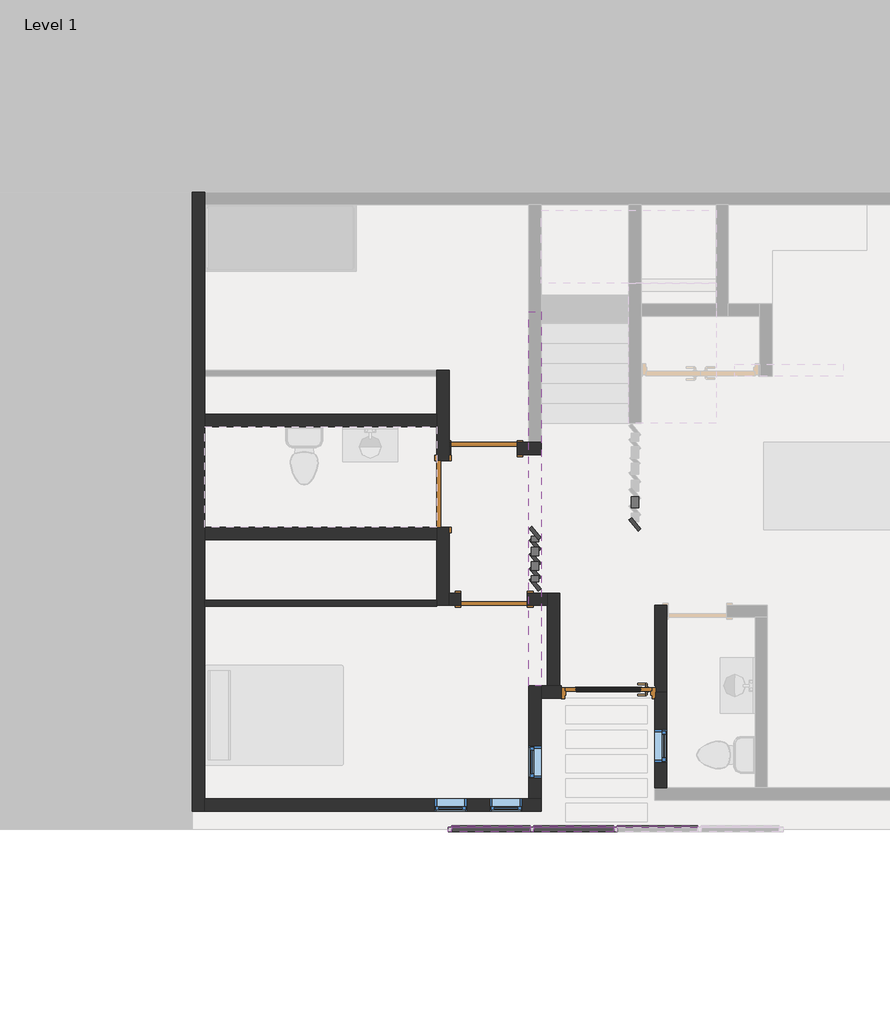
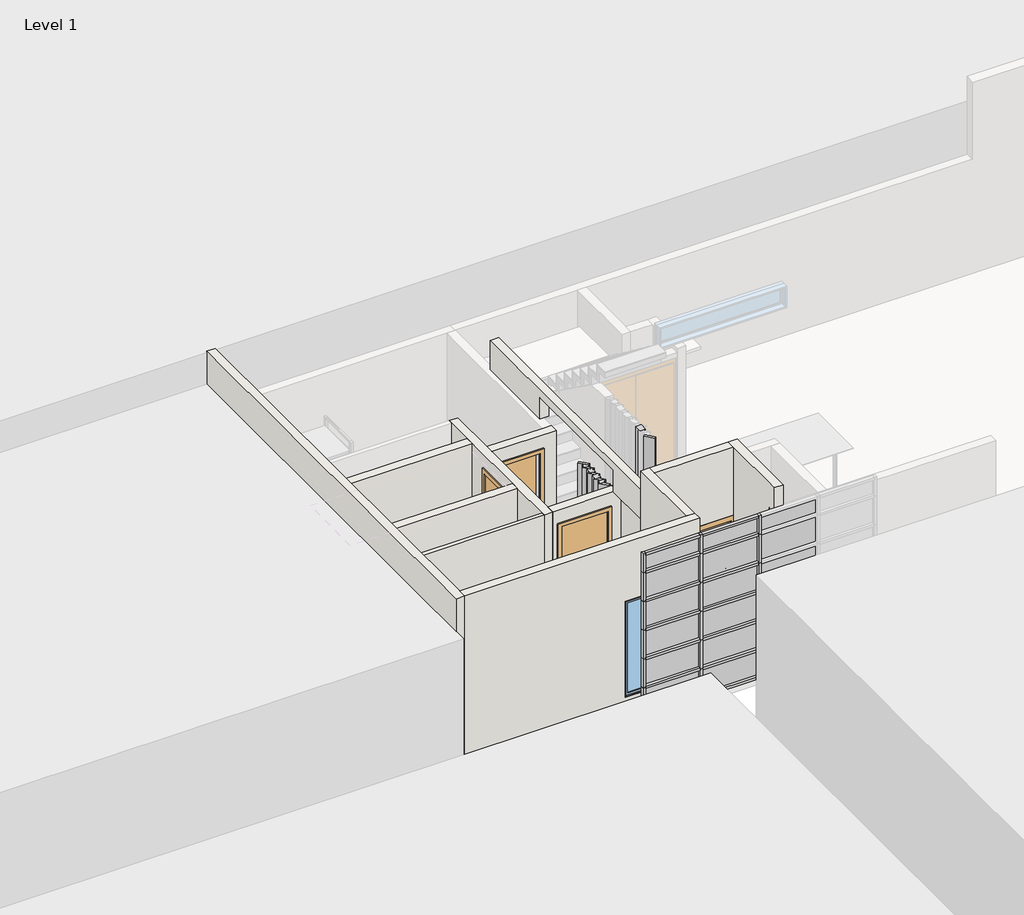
# One storey, part 1 of 3: 39 members, 23 plates, 14 walls, 4 doors, 4 windows.
"""IFC4 building model written with IfcOpenShell, lengths in millimetres."""

from ifc_helpers import new_model, si_unit, frame, origin, place, context, project, spatial, polyline, outline, extrude, faceted_brep, transform, mapped, element, save
from components import m_door_passage_single_full_lite_1200_x_2000mm_8ce647b2, m_single_flush_0915_x_2032mm_39b6ed43, m_single_flush_0915_x_2032mm_0754afa6, rectangular_mullion_50mm_x_150mm_d19166ad, rectangular_mullion_50mm_x_150mm_84331088, rectangular_mullion_50mm_x_150mm_e900c828, rectangular_mullion_50mm_x_65mm_ff5aef03, rectangular_mullion_50mm_x_65mm_a82a1849, rectangular_mullion_50mm_x_65mm_891f7412, rectangular_mullion_50mm_x_65mm_8b285529, rectangular_mullion_50mm_x_65mm_56aac8fe, rectangular_mullion_50mm_x_65mm_799d5ca8, rectangular_mullion_50mm_x_65mm_d660201f, rectangular_mullion_50mm_x_65mm_3a6a0bf0, empty_system_panel_empty_b25575e7, empty_system_panel_empty_b9bee198, empty_system_panel_empty_ddea43da, system_panel_glazed_61021ea4, system_panel_glazed_a4c32394, system_panel_glazed_60e00044, system_panel_glazed_21c0f472, system_panel_glazed_e487c379, system_panel_glazed_dd1ed69c, m_fixed_e2bd5fef

model = new_model("IFC4")

# Units and contexts
model_context = context("Model", 3, world=origin())
ifc_project = project(units=[si_unit("LENGTHUNIT", "METRE", prefix="MILLI")], contexts=[model_context])

# Site, building, storey
site = spatial("IfcSite", under=ifc_project)
building = spatial("IfcBuilding", under=site)
storey = spatial("IfcBuildingStorey", under=building, Name="Level 1", Elevation=180.0)

# Doors
placement = place(None, origin())
m_door_passage_single_full_lite_1200_x_2000mm_shape = m_door_passage_single_full_lite_1200_x_2000mm_8ce647b2(model_context)
element("IfcDoor", 1, ObjectType="M_Door-Passage-Single-Full_Lite : 1200 x 2000mm", at=placement, inside=storey, context=model_context, shape_type="MappedRepresentation", body=[
    mapped(m_door_passage_single_full_lite_1200_x_2000mm_shape, transform((-1179.1887888, -3802.3318761, 180.0), x_axis=(-1.0, 0.0, 0.0), y_axis=(0.0, -1.0, 0.0), z_axis=(0.0, 0.0, 1.0))),
])
m_single_flush_0915_x_2032mm_shape = m_single_flush_0915_x_2032mm_39b6ed43(model_context)
element("IfcDoor", 2, ObjectType="M_Single-Flush : 0915 x 2032mm", at=placement, inside=storey, context=model_context, shape_type="MappedRepresentation", body=[
    mapped(m_single_flush_0915_x_2032mm_shape, transform((-2887.6157199, -450.9818761, 180.0), x_axis=(-1.0, 0.0, 0.0), y_axis=(0.0, -1.0, 0.0), z_axis=(0.0, 0.0, 1.0))),
])
element("IfcDoor", 3, ObjectType="M_Single-Flush : 0915 x 2032mm", at=placement, inside=storey, context=model_context, shape_type="MappedRepresentation", body=[
    mapped(m_single_flush_0915_x_2032mm_shape, transform((-3450.1157199, -1073.4818761, 180.0), x_axis=(0.0, -1.0, 0.0), y_axis=(1.0, 0.0, 0.0), z_axis=(0.0, 0.0, 1.0))),
])
m_single_flush_0915_x_2032mm_2_shape = m_single_flush_0915_x_2032mm_0754afa6(model_context)
element("IfcDoor", 4, ObjectType="M_Single-Flush : 0915 x 2032mm", at=placement, inside=storey, context=model_context, shape_type="MappedRepresentation", body=[
    mapped(m_single_flush_0915_x_2032mm_2_shape, transform((-2747.6157199, -2519.9818761, 180.0), x_axis=(-1.0, 0.0, 0.0), y_axis=(0.0, -1.0, 0.0), z_axis=(0.0, 0.0, 1.0))),
])

# Members
rectangular_mullion_50mm_x_150mm_shape = rectangular_mullion_50mm_x_150mm_d19166ad(model_context)
element("IfcMember", 5, ObjectType="Rectangular Mullion : 50mm x 150mm", at=placement, inside=storey, context=model_context, shape_type="MappedRepresentation", body=[
    mapped(rectangular_mullion_50mm_x_150mm_shape, transform((-2185.1157199, -2159.981876, 180.0), x_axis=(0.0, 1.0, 0.0), y_axis=(1.0, 0.0, 0.0), z_axis=(0.0, 0.0, -1.0))),
])
element("IfcMember", 6, ObjectType="Rectangular Mullion : 50mm x 150mm", at=placement, inside=storey, context=model_context, shape_type="MappedRepresentation", body=[
    mapped(rectangular_mullion_50mm_x_150mm_shape, transform((-2185.1157199, -1964.9818761, 180.0), x_axis=(0.0, 1.0, 0.0), y_axis=(1.0, 0.0, 0.0), z_axis=(0.0, 0.0, -1.0))),
])
element("IfcMember", 7, ObjectType="Rectangular Mullion : 50mm x 150mm", at=placement, inside=storey, context=model_context, shape_type="MappedRepresentation", body=[
    mapped(rectangular_mullion_50mm_x_150mm_shape, transform((-2185.1157199, -1769.9818763, 180.0), x_axis=(0.0, 1.0, 0.0), y_axis=(1.0, 0.0, 0.0), z_axis=(0.0, 0.0, -1.0))),
])
rectangular_mullion_50mm_x_150mm_2_shape = rectangular_mullion_50mm_x_150mm_84331088(model_context)
element("IfcMember", 8, ObjectType="Rectangular Mullion : 50mm x 150mm", at=placement, inside=storey, context=model_context, shape_type="MappedRepresentation", body=[
    mapped(rectangular_mullion_50mm_x_150mm_2_shape, transform((-815.1157199, -1530.9818761, 180.0), x_axis=(0.0, -1.0, 0.0), y_axis=(-1.0, 0.0, 0.0), z_axis=(0.0, 0.0, -1.0))),
])
element("IfcMember", 9, ObjectType="Rectangular Mullion : 50mm x 150mm", at=placement, inside=storey, context=model_context, shape_type="MappedRepresentation", body=[
    mapped(rectangular_mullion_50mm_x_150mm_2_shape, transform((-2185.1157199, -1574.9818761, 180.0), x_axis=(0.0, 1.0, 0.0), y_axis=(1.0, 0.0, 0.0), z_axis=(0.0, 0.0, -1.0))),
])
rectangular_mullion_50mm_x_150mm_3_shape = rectangular_mullion_50mm_x_150mm_e900c828(model_context)
element("IfcMember", 10, ObjectType="Rectangular Mullion : 50mm x 150mm", at=placement, inside=storey, context=model_context, shape_type="MappedRepresentation", body=[
    mapped(rectangular_mullion_50mm_x_150mm_3_shape, transform((-2185.1157199, -2354.9818761, 2560.0), x_axis=(0.0, -1.0, 0.0), y_axis=(1.0, 0.0, 0.0), z_axis=(0.0, 0.0, 1.0))),
])
rectangular_mullion_50mm_x_65mm_shape = rectangular_mullion_50mm_x_65mm_ff5aef03(model_context)
element("IfcMember", 11, ObjectType="Rectangular Mullion : 50mm x 65mm", at=placement, inside=storey, context=model_context, shape_type="MappedRepresentation", body=[
    mapped(rectangular_mullion_50mm_x_65mm_shape, transform((-3380.1157199, -5680.9818761, 780.0), x_axis=(-1.0, 0.0, 0.0), y_axis=(0.0, -1.0, 0.0), z_axis=(0.0, 0.0, 1.0))),
])
element("IfcMember", 12, ObjectType="Rectangular Mullion : 50mm x 65mm", at=placement, inside=storey, context=model_context, shape_type="MappedRepresentation", body=[
    mapped(rectangular_mullion_50mm_x_65mm_shape, transform((-3380.1157199, -5680.9818761, 1380.0), x_axis=(-1.0, 0.0, 0.0), y_axis=(0.0, -1.0, 0.0), z_axis=(0.0, 0.0, 1.0))),
])
element("IfcMember", 13, ObjectType="Rectangular Mullion : 50mm x 65mm", at=placement, inside=storey, context=model_context, shape_type="MappedRepresentation", body=[
    mapped(rectangular_mullion_50mm_x_65mm_shape, transform((-3380.1157199, -5680.9818761, 1980.0), x_axis=(-1.0, 0.0, 0.0), y_axis=(0.0, -1.0, 0.0), z_axis=(0.0, 0.0, 1.0))),
])
element("IfcMember", 14, ObjectType="Rectangular Mullion : 50mm x 65mm", at=placement, inside=storey, context=model_context, shape_type="MappedRepresentation", body=[
    mapped(rectangular_mullion_50mm_x_65mm_shape, transform((-3380.1157199, -5680.9818761, 2580.0), x_axis=(-1.0, 0.0, 0.0), y_axis=(0.0, -1.0, 0.0), z_axis=(0.0, 0.0, 1.0))),
])
element("IfcMember", 15, ObjectType="Rectangular Mullion : 50mm x 65mm", at=placement, inside=storey, context=model_context, shape_type="MappedRepresentation", body=[
    mapped(rectangular_mullion_50mm_x_65mm_shape, transform((-3380.1157199, -5680.9818761, 3180.0), x_axis=(-1.0, 0.0, 0.0), y_axis=(0.0, -1.0, 0.0), z_axis=(0.0, 0.0, 1.0))),
])
rectangular_mullion_50mm_x_65mm_2_shape = rectangular_mullion_50mm_x_65mm_a82a1849(model_context)
element("IfcMember", 16, ObjectType="Rectangular Mullion : 50mm x 65mm", at=placement, inside=storey, context=model_context, shape_type="MappedRepresentation", body=[
    mapped(rectangular_mullion_50mm_x_65mm_2_shape, transform((-2230.1157198, -5680.9818761, 180.0), x_axis=(1.0, 0.0, 0.0), y_axis=(0.0, -1.0, 0.0), z_axis=(0.0, 0.0, -1.0))),
])
element("IfcMember", 17, ObjectType="Rectangular Mullion : 50mm x 65mm", at=placement, inside=storey, context=model_context, shape_type="MappedRepresentation", body=[
    mapped(rectangular_mullion_50mm_x_65mm_2_shape, transform((-1080.1157199, -5680.9818761, 180.0), x_axis=(1.0, 0.0, 0.0), y_axis=(0.0, -1.0, 0.0), z_axis=(0.0, 0.0, -1.0))),
])
element("IfcMember", 18, ObjectType="Rectangular Mullion : 50mm x 65mm", at=placement, inside=storey, context=model_context, shape_type="MappedRepresentation", body=[
    mapped(rectangular_mullion_50mm_x_65mm_2_shape, transform((-2230.1157198, -5680.9818761, 780.0), x_axis=(1.0, 0.0, 0.0), y_axis=(0.0, -1.0, 0.0), z_axis=(0.0, 0.0, -1.0))),
])
element("IfcMember", 19, ObjectType="Rectangular Mullion : 50mm x 65mm", at=placement, inside=storey, context=model_context, shape_type="MappedRepresentation", body=[
    mapped(rectangular_mullion_50mm_x_65mm_2_shape, transform((-1080.1157199, -5680.9818761, 780.0), x_axis=(1.0, 0.0, 0.0), y_axis=(0.0, -1.0, 0.0), z_axis=(0.0, 0.0, -1.0))),
])
element("IfcMember", 20, ObjectType="Rectangular Mullion : 50mm x 65mm", at=placement, inside=storey, context=model_context, shape_type="MappedRepresentation", body=[
    mapped(rectangular_mullion_50mm_x_65mm_2_shape, transform((-2230.1157198, -5680.9818761, 1380.0), x_axis=(1.0, 0.0, 0.0), y_axis=(0.0, -1.0, 0.0), z_axis=(0.0, 0.0, -1.0))),
])
element("IfcMember", 21, ObjectType="Rectangular Mullion : 50mm x 65mm", at=placement, inside=storey, context=model_context, shape_type="MappedRepresentation", body=[
    mapped(rectangular_mullion_50mm_x_65mm_2_shape, transform((-1080.1157199, -5680.9818761, 1380.0), x_axis=(1.0, 0.0, 0.0), y_axis=(0.0, -1.0, 0.0), z_axis=(0.0, 0.0, -1.0))),
])
element("IfcMember", 22, ObjectType="Rectangular Mullion : 50mm x 65mm", at=placement, inside=storey, context=model_context, shape_type="MappedRepresentation", body=[
    mapped(rectangular_mullion_50mm_x_65mm_2_shape, transform((-2230.1157198, -5680.9818761, 1980.0), x_axis=(1.0, 0.0, 0.0), y_axis=(0.0, -1.0, 0.0), z_axis=(0.0, 0.0, -1.0))),
])
element("IfcMember", 23, ObjectType="Rectangular Mullion : 50mm x 65mm", at=placement, inside=storey, context=model_context, shape_type="MappedRepresentation", body=[
    mapped(rectangular_mullion_50mm_x_65mm_2_shape, transform((-1080.1157199, -5680.9818761, 1980.0), x_axis=(1.0, 0.0, 0.0), y_axis=(0.0, -1.0, 0.0), z_axis=(0.0, 0.0, -1.0))),
])
element("IfcMember", 24, ObjectType="Rectangular Mullion : 50mm x 65mm", at=placement, inside=storey, context=model_context, shape_type="MappedRepresentation", body=[
    mapped(rectangular_mullion_50mm_x_65mm_2_shape, transform((-2230.1157198, -5680.9818761, 2580.0), x_axis=(1.0, 0.0, 0.0), y_axis=(0.0, -1.0, 0.0), z_axis=(0.0, 0.0, -1.0))),
])
element("IfcMember", 25, ObjectType="Rectangular Mullion : 50mm x 65mm", at=placement, inside=storey, context=model_context, shape_type="MappedRepresentation", body=[
    mapped(rectangular_mullion_50mm_x_65mm_2_shape, transform((-1080.1157199, -5680.9818761, 2580.0), x_axis=(1.0, 0.0, 0.0), y_axis=(0.0, -1.0, 0.0), z_axis=(0.0, 0.0, -1.0))),
])
rectangular_mullion_50mm_x_65mm_3_shape = rectangular_mullion_50mm_x_65mm_891f7412(model_context)
element("IfcMember", 26, ObjectType="Rectangular Mullion : 50mm x 65mm", at=placement, inside=storey, context=model_context, shape_type="MappedRepresentation", body=[
    mapped(rectangular_mullion_50mm_x_65mm_3_shape, transform((-2230.1157198, -5680.9818761, 3180.0), x_axis=(1.0, 0.0, 0.0), y_axis=(0.0, -1.0, 0.0), z_axis=(0.0, 0.0, -1.0))),
])
element("IfcMember", 27, ObjectType="Rectangular Mullion : 50mm x 65mm", at=placement, inside=storey, context=model_context, shape_type="MappedRepresentation", body=[
    mapped(rectangular_mullion_50mm_x_65mm_3_shape, transform((-1080.1157199, -5680.9818761, 3180.0), x_axis=(1.0, 0.0, 0.0), y_axis=(0.0, -1.0, 0.0), z_axis=(0.0, 0.0, -1.0))),
])
rectangular_mullion_50mm_x_65mm_4_shape = rectangular_mullion_50mm_x_65mm_8b285529(model_context)
element("IfcMember", 28, ObjectType="Rectangular Mullion : 50mm x 65mm", at=placement, inside=storey, context=model_context, shape_type="MappedRepresentation", body=[
    mapped(rectangular_mullion_50mm_x_65mm_4_shape, transform((-3380.1157199, -5680.9818761, 3574.3395716), x_axis=(-1.0, 0.0, 0.0), y_axis=(0.0, -1.0, 0.0), z_axis=(0.0, 0.0, 1.0))),
])
rectangular_mullion_50mm_x_65mm_5_shape = rectangular_mullion_50mm_x_65mm_56aac8fe(model_context)
element("IfcMember", 29, ObjectType="Rectangular Mullion : 50mm x 65mm", at=placement, inside=storey, context=model_context, shape_type="MappedRepresentation", body=[
    mapped(rectangular_mullion_50mm_x_65mm_5_shape, transform((-2255.1157198, -5680.9818761, 3574.3395716), x_axis=(0.0, 0.0, 1.0), y_axis=(0.0, -1.0, 0.0), z_axis=(1.0, 0.0, 0.0))),
])
element("IfcMember", 30, ObjectType="Rectangular Mullion : 50mm x 65mm", at=placement, inside=storey, context=model_context, shape_type="MappedRepresentation", body=[
    mapped(rectangular_mullion_50mm_x_65mm_5_shape, transform((-3330.1157199, -5680.9818761, 180.0), x_axis=(0.0, 0.0, -1.0), y_axis=(0.0, -1.0, 0.0), z_axis=(-1.0, 0.0, 0.0))),
])
rectangular_mullion_50mm_x_65mm_6_shape = rectangular_mullion_50mm_x_65mm_799d5ca8(model_context)
element("IfcMember", 31, ObjectType="Rectangular Mullion : 50mm x 65mm", at=placement, inside=storey, context=model_context, shape_type="MappedRepresentation", body=[
    mapped(rectangular_mullion_50mm_x_65mm_6_shape, transform((-2255.1157198, -5680.9818761, 780.0), x_axis=(0.0, 0.0, 1.0), y_axis=(0.0, -1.0, 0.0), z_axis=(1.0, 0.0, 0.0))),
])
element("IfcMember", 32, ObjectType="Rectangular Mullion : 50mm x 65mm", at=placement, inside=storey, context=model_context, shape_type="MappedRepresentation", body=[
    mapped(rectangular_mullion_50mm_x_65mm_6_shape, transform((-2255.1157198, -5680.9818761, 1380.0), x_axis=(0.0, 0.0, 1.0), y_axis=(0.0, -1.0, 0.0), z_axis=(1.0, 0.0, 0.0))),
])
element("IfcMember", 33, ObjectType="Rectangular Mullion : 50mm x 65mm", at=placement, inside=storey, context=model_context, shape_type="MappedRepresentation", body=[
    mapped(rectangular_mullion_50mm_x_65mm_6_shape, transform((-2255.1157198, -5680.9818761, 1980.0), x_axis=(0.0, 0.0, 1.0), y_axis=(0.0, -1.0, 0.0), z_axis=(1.0, 0.0, 0.0))),
])
element("IfcMember", 34, ObjectType="Rectangular Mullion : 50mm x 65mm", at=placement, inside=storey, context=model_context, shape_type="MappedRepresentation", body=[
    mapped(rectangular_mullion_50mm_x_65mm_6_shape, transform((-2255.1157198, -5680.9818761, 2580.0), x_axis=(0.0, 0.0, 1.0), y_axis=(0.0, -1.0, 0.0), z_axis=(1.0, 0.0, 0.0))),
])
element("IfcMember", 35, ObjectType="Rectangular Mullion : 50mm x 65mm", at=placement, inside=storey, context=model_context, shape_type="MappedRepresentation", body=[
    mapped(rectangular_mullion_50mm_x_65mm_6_shape, transform((-2255.1157198, -5680.9818761, 3180.0), x_axis=(0.0, 0.0, 1.0), y_axis=(0.0, -1.0, 0.0), z_axis=(1.0, 0.0, 0.0))),
])
rectangular_mullion_50mm_x_65mm_7_shape = rectangular_mullion_50mm_x_65mm_d660201f(model_context)
element("IfcMember", 36, ObjectType="Rectangular Mullion : 50mm x 65mm", at=placement, inside=storey, context=model_context, shape_type="MappedRepresentation", body=[
    mapped(rectangular_mullion_50mm_x_65mm_7_shape, transform((-1105.1157199, -5680.9818761, 3574.3395716), x_axis=(0.0, 0.0, 1.0), y_axis=(0.0, -1.0, 0.0), z_axis=(1.0, 0.0, 0.0))),
])
element("IfcMember", 37, ObjectType="Rectangular Mullion : 50mm x 65mm", at=placement, inside=storey, context=model_context, shape_type="MappedRepresentation", body=[
    mapped(rectangular_mullion_50mm_x_65mm_7_shape, transform((-2205.1157198, -5680.9818761, 180.0), x_axis=(0.0, 0.0, -1.0), y_axis=(0.0, -1.0, 0.0), z_axis=(-1.0, 0.0, 0.0))),
])
element("IfcMember", 38, ObjectType="Rectangular Mullion : 50mm x 65mm", at=placement, inside=storey, context=model_context, shape_type="MappedRepresentation", body=[
    mapped(rectangular_mullion_50mm_x_65mm_7_shape, transform((-1055.1157199, -5680.9818761, 180.0), x_axis=(0.0, 0.0, -1.0), y_axis=(0.0, -1.0, 0.0), z_axis=(-1.0, 0.0, 0.0))),
])
rectangular_mullion_50mm_x_65mm_8_shape = rectangular_mullion_50mm_x_65mm_3a6a0bf0(model_context)
element("IfcMember", 39, ObjectType="Rectangular Mullion : 50mm x 65mm", at=placement, inside=storey, context=model_context, shape_type="MappedRepresentation", body=[
    mapped(rectangular_mullion_50mm_x_65mm_8_shape, transform((-1105.1157199, -5680.9818761, 780.0), x_axis=(0.0, 0.0, 1.0), y_axis=(0.0, -1.0, 0.0), z_axis=(1.0, 0.0, 0.0))),
])
element("IfcMember", 40, ObjectType="Rectangular Mullion : 50mm x 65mm", at=placement, inside=storey, context=model_context, shape_type="MappedRepresentation", body=[
    mapped(rectangular_mullion_50mm_x_65mm_8_shape, transform((-1105.1157199, -5680.9818761, 1380.0), x_axis=(0.0, 0.0, 1.0), y_axis=(0.0, -1.0, 0.0), z_axis=(1.0, 0.0, 0.0))),
])
element("IfcMember", 41, ObjectType="Rectangular Mullion : 50mm x 65mm", at=placement, inside=storey, context=model_context, shape_type="MappedRepresentation", body=[
    mapped(rectangular_mullion_50mm_x_65mm_8_shape, transform((-1105.1157199, -5680.9818761, 1980.0), x_axis=(0.0, 0.0, 1.0), y_axis=(0.0, -1.0, 0.0), z_axis=(1.0, 0.0, 0.0))),
])
element("IfcMember", 42, ObjectType="Rectangular Mullion : 50mm x 65mm", at=placement, inside=storey, context=model_context, shape_type="MappedRepresentation", body=[
    mapped(rectangular_mullion_50mm_x_65mm_8_shape, transform((-1105.1157199, -5680.9818761, 2580.0), x_axis=(0.0, 0.0, 1.0), y_axis=(0.0, -1.0, 0.0), z_axis=(1.0, 0.0, 0.0))),
])
element("IfcMember", 43, ObjectType="Rectangular Mullion : 50mm x 65mm", at=placement, inside=storey, context=model_context, shape_type="MappedRepresentation", body=[
    mapped(rectangular_mullion_50mm_x_65mm_8_shape, transform((-1105.1157199, -5680.9818761, 3180.0), x_axis=(0.0, 0.0, 1.0), y_axis=(0.0, -1.0, 0.0), z_axis=(1.0, 0.0, 0.0))),
])

# Plates
empty_system_panel_empty_shape = empty_system_panel_empty_b25575e7(model_context)
element("IfcPlate", 44, ObjectType="Empty System Panel : Empty", at=placement, inside=storey, context=model_context, shape_type="MappedRepresentation", body=[
    mapped(empty_system_panel_empty_shape, transform((-815.1157199, -1188.481876, 180.0), x_axis=(0.0, -1.0, 0.0), y_axis=(1.0, 0.0, 0.0), z_axis=(0.0, 0.0, 1.0))),
])
empty_system_panel_empty_2_shape = empty_system_panel_empty_b9bee198(model_context)
element("IfcPlate", 45, ObjectType="Empty System Panel : Empty", at=placement, inside=storey, context=model_context, shape_type="MappedRepresentation", body=[
    mapped(empty_system_panel_empty_2_shape, transform((-2185.1157199, -2238.0353282, 180.0), x_axis=(0.0, 1.0, 0.0), y_axis=(-1.0, 0.0, 0.0), z_axis=(0.0, 0.0, 1.0))),
])
element("IfcPlate", 46, ObjectType="Empty System Panel : Empty", at=placement, inside=storey, context=model_context, shape_type="MappedRepresentation", body=[
    mapped(empty_system_panel_empty_2_shape, transform((-2185.1157199, -1691.9284241, 180.0), x_axis=(0.0, 1.0, 0.0), y_axis=(-1.0, 0.0, 0.0), z_axis=(0.0, 0.0, 1.0))),
])
empty_system_panel_empty_3_shape = empty_system_panel_empty_ddea43da(model_context)
element("IfcPlate", 47, ObjectType="Empty System Panel : Empty", at=placement, inside=storey, context=model_context, shape_type="MappedRepresentation", body=[
    mapped(empty_system_panel_empty_3_shape, transform((-2185.1157199, -2062.4818761, 180.0), x_axis=(0.0, 1.0, 0.0), y_axis=(-1.0, 0.0, 0.0), z_axis=(0.0, 0.0, 1.0))),
])
element("IfcPlate", 48, ObjectType="Empty System Panel : Empty", at=placement, inside=storey, context=model_context, shape_type="MappedRepresentation", body=[
    mapped(empty_system_panel_empty_3_shape, transform((-2185.1157199, -1867.4818762, 180.0), x_axis=(0.0, 1.0, 0.0), y_axis=(-1.0, 0.0, 0.0), z_axis=(0.0, 0.0, 1.0))),
])
system_panel_glazed_shape = system_panel_glazed_61021ea4(model_context)
element("IfcPlate", 49, ObjectType="System Panel : Glazed", at=placement, inside=storey, context=model_context, shape_type="MappedRepresentation", body=[
    mapped(system_panel_glazed_shape, transform((-2792.6157198, -5680.9818761, 230.0), x_axis=(1.0, 0.0, 0.0), y_axis=(0.0, 1.0, 0.0), z_axis=(0.0, 0.0, 1.0))),
])
system_panel_glazed_2_shape = system_panel_glazed_a4c32394(model_context)
element("IfcPlate", 50, ObjectType="System Panel : Glazed", at=placement, inside=storey, context=model_context, shape_type="MappedRepresentation", body=[
    mapped(system_panel_glazed_2_shape, transform((-2792.6157198, -5680.9818761, 805.0), x_axis=(1.0, 0.0, 0.0), y_axis=(0.0, 1.0, 0.0), z_axis=(0.0, 0.0, 1.0))),
])
element("IfcPlate", 51, ObjectType="System Panel : Glazed", at=placement, inside=storey, context=model_context, shape_type="MappedRepresentation", body=[
    mapped(system_panel_glazed_2_shape, transform((-2792.6157198, -5680.9818761, 1405.0), x_axis=(1.0, 0.0, 0.0), y_axis=(0.0, 1.0, 0.0), z_axis=(0.0, 0.0, 1.0))),
])
element("IfcPlate", 52, ObjectType="System Panel : Glazed", at=placement, inside=storey, context=model_context, shape_type="MappedRepresentation", body=[
    mapped(system_panel_glazed_2_shape, transform((-2792.6157198, -5680.9818761, 2005.0), x_axis=(1.0, 0.0, 0.0), y_axis=(0.0, 1.0, 0.0), z_axis=(0.0, 0.0, 1.0))),
])
element("IfcPlate", 53, ObjectType="System Panel : Glazed", at=placement, inside=storey, context=model_context, shape_type="MappedRepresentation", body=[
    mapped(system_panel_glazed_2_shape, transform((-2792.6157198, -5680.9818761, 2605.0), x_axis=(1.0, 0.0, 0.0), y_axis=(0.0, 1.0, 0.0), z_axis=(0.0, 0.0, 1.0))),
])
system_panel_glazed_3_shape = system_panel_glazed_60e00044(model_context)
element("IfcPlate", 54, ObjectType="System Panel : Glazed", at=placement, inside=storey, context=model_context, shape_type="MappedRepresentation", body=[
    mapped(system_panel_glazed_3_shape, transform((-1655.1157198, -5680.9818761, 230.0), x_axis=(1.0, 0.0, 0.0), y_axis=(0.0, 1.0, 0.0), z_axis=(0.0, 0.0, 1.0))),
])
element("IfcPlate", 55, ObjectType="System Panel : Glazed", at=placement, inside=storey, context=model_context, shape_type="MappedRepresentation", body=[
    mapped(system_panel_glazed_3_shape, transform((-505.11572, -5680.9818761, 230.0), x_axis=(1.0, 0.0, 0.0), y_axis=(0.0, 1.0, 0.0), z_axis=(0.0, 0.0, 1.0))),
])
system_panel_glazed_4_shape = system_panel_glazed_21c0f472(model_context)
element("IfcPlate", 56, ObjectType="System Panel : Glazed", at=placement, inside=storey, context=model_context, shape_type="MappedRepresentation", body=[
    mapped(system_panel_glazed_4_shape, transform((-1655.1157198, -5680.9818761, 805.0), x_axis=(1.0, 0.0, 0.0), y_axis=(0.0, 1.0, 0.0), z_axis=(0.0, 0.0, 1.0))),
])
element("IfcPlate", 57, ObjectType="System Panel : Glazed", at=placement, inside=storey, context=model_context, shape_type="MappedRepresentation", body=[
    mapped(system_panel_glazed_4_shape, transform((-1655.1157198, -5680.9818761, 1405.0), x_axis=(1.0, 0.0, 0.0), y_axis=(0.0, 1.0, 0.0), z_axis=(0.0, 0.0, 1.0))),
])
element("IfcPlate", 58, ObjectType="System Panel : Glazed", at=placement, inside=storey, context=model_context, shape_type="MappedRepresentation", body=[
    mapped(system_panel_glazed_4_shape, transform((-1655.1157198, -5680.9818761, 2005.0), x_axis=(1.0, 0.0, 0.0), y_axis=(0.0, 1.0, 0.0), z_axis=(0.0, 0.0, 1.0))),
])
element("IfcPlate", 59, ObjectType="System Panel : Glazed", at=placement, inside=storey, context=model_context, shape_type="MappedRepresentation", body=[
    mapped(system_panel_glazed_4_shape, transform((-1655.1157198, -5680.9818761, 2605.0), x_axis=(1.0, 0.0, 0.0), y_axis=(0.0, 1.0, 0.0), z_axis=(0.0, 0.0, 1.0))),
])
element("IfcPlate", 60, ObjectType="System Panel : Glazed", at=placement, inside=storey, context=model_context, shape_type="MappedRepresentation", body=[
    mapped(system_panel_glazed_4_shape, transform((-505.11572, -5680.9818761, 805.0), x_axis=(1.0, 0.0, 0.0), y_axis=(0.0, 1.0, 0.0), z_axis=(0.0, 0.0, 1.0))),
])
element("IfcPlate", 61, ObjectType="System Panel : Glazed", at=placement, inside=storey, context=model_context, shape_type="MappedRepresentation", body=[
    mapped(system_panel_glazed_4_shape, transform((-505.11572, -5680.9818761, 1405.0), x_axis=(1.0, 0.0, 0.0), y_axis=(0.0, 1.0, 0.0), z_axis=(0.0, 0.0, 1.0))),
])
element("IfcPlate", 62, ObjectType="System Panel : Glazed", at=placement, inside=storey, context=model_context, shape_type="MappedRepresentation", body=[
    mapped(system_panel_glazed_4_shape, transform((-505.11572, -5680.9818761, 2005.0), x_axis=(1.0, 0.0, 0.0), y_axis=(0.0, 1.0, 0.0), z_axis=(0.0, 0.0, 1.0))),
])
element("IfcPlate", 63, ObjectType="System Panel : Glazed", at=placement, inside=storey, context=model_context, shape_type="MappedRepresentation", body=[
    mapped(system_panel_glazed_4_shape, transform((-505.11572, -5680.9818761, 2605.0), x_axis=(1.0, 0.0, 0.0), y_axis=(0.0, 1.0, 0.0), z_axis=(0.0, 0.0, 1.0))),
])
system_panel_glazed_5_shape = system_panel_glazed_e487c379(model_context)
element("IfcPlate", 64, ObjectType="System Panel : Glazed", at=placement, inside=storey, context=model_context, shape_type="MappedRepresentation", body=[
    mapped(system_panel_glazed_5_shape, transform((-2792.6157198, -5680.9818761, 3205.0), x_axis=(1.0, 0.0, 0.0), y_axis=(0.0, 1.0, 0.0), z_axis=(0.0, 0.0, 1.0))),
])
system_panel_glazed_6_shape = system_panel_glazed_dd1ed69c(model_context)
element("IfcPlate", 65, ObjectType="System Panel : Glazed", at=placement, inside=storey, context=model_context, shape_type="MappedRepresentation", body=[
    mapped(system_panel_glazed_6_shape, transform((-1655.1157198, -5680.9818761, 3205.0), x_axis=(1.0, 0.0, 0.0), y_axis=(0.0, 1.0, 0.0), z_axis=(0.0, 0.0, 1.0))),
])
element("IfcPlate", 66, ObjectType="System Panel : Glazed", at=placement, inside=storey, context=model_context, shape_type="MappedRepresentation", body=[
    mapped(system_panel_glazed_6_shape, transform((-505.11572, -5680.9818761, 3205.0), x_axis=(1.0, 0.0, 0.0), y_axis=(0.0, 1.0, 0.0), z_axis=(0.0, 0.0, 1.0))),
])

# Walls
element("IfcWall", 67, ObjectType="Generic - 170", at=placement, inside=storey, context=model_context, shape_type="Brep", body=[
    faceted_brep([(-6724.1375886, -5430.9818761, 180.0), (-6724.1375886, -5260.9818761, 180.0), (-6724.1375886, -2616.2535438, 180.0), (-6724.1375886, -2536.2535438, 180.0), (-6724.1375886, -1700.9818761, 180.0), (-6724.1375886, -1530.9818761, 180.0), (-6724.1375886, -150.9818761, 180.0), (-6724.1375886, 19.0181239, 180.0), (-6724.1375886, 544.0181239, 180.0), (-6724.1375886, 624.0181239, 180.0), (-6724.1375886, 2899.0181239, 180.0), (-6724.1375886, 3069.0181239, 180.0), (-6724.1375886, 3069.0181239, 2560.0), (-6724.1375886, 3069.0181239, 3700.0), (-6724.1375886, -5260.9818761, 3700.0), (-6724.1375886, -5430.9818761, 3700.0), (-6894.1375886, -5430.9818761, 180.0), (-6894.1375886, -5430.9818761, 3700.0), (-6894.1375886, 3069.0181239, 3700.0), (-6894.1375886, 3069.0181239, 180.0)], [[[0, 1, 2, 3, 4, 5, 6, 7, 8, 9, 10, 11, 12, 13, 14, 15]], [[16, 17, 18, 19]], [[11, 10, 9, 8, 7, 6, 5, 4, 3, 2, 1, 0, 16, 19]], [[15, 14, 13, 18, 17]], [[13, 12, 11, 19, 18]], [[0, 15, 17, 16]]]),
])
element("IfcWall", 68, ObjectType="Generic - 170", at=placement, inside=storey, context=model_context, shape_type="Brep", body=[
    faceted_brep([(-545.1157199, -3880.9818761, 3700.0), (-2100.1157199, -3880.9818761, 3700.0), (-2100.1157199, -3880.9818761, 180.0), (-1829.1887888, -3880.9818761, 180.0), (-1829.1887888, -3880.9818761, 2280.0), (-545.1157199, -3880.9818761, 2280.0), (-2100.1157199, -3710.9818761, 3700.0), (-545.1157199, -3710.9818761, 3700.0), (-545.1157199, -3710.9818761, 2560.0), (-545.1157199, -3710.9818761, 2280.0), (-1829.1887888, -3710.9818761, 2280.0), (-1829.1887888, -3710.9818761, 180.0), (-1848.2387888, -3710.9818761, 180.0), (-2018.2387888, -3710.9818761, 180.0), (-2100.1157199, -3710.9818761, 180.0), (-2100.1157199, -3710.9818761, 3300.0), (-545.1157199, -3795.9818761, 2280.0)], [[[0, 1, 2, 3, 4, 5]], [[6, 7, 8, 9, 10, 11, 12, 13, 14, 15]], [[2, 14, 13, 12, 11, 3]], [[1, 0, 7, 6]], [[10, 4, 3, 11]], [[4, 10, 9, 16, 5]], [[7, 0, 5, 16, 9, 8]], [[1, 6, 15, 14, 2]]]),
])
element("IfcWall", 69, ObjectType="Generic - 170", at=placement, inside=storey, context=model_context, shape_type="Brep", body=[
    faceted_brep([(-2100.1157199, -535.9818761, 180.0), (-2100.1157199, -535.9818761, 2560.0), (-3365.1157199, -535.9818761, 2560.0), (-3365.1157199, -535.9818761, 180.0), (-3345.1157199, -535.9818761, 180.0), (-3345.1157199, -535.9818761, 2212.0), (-2430.1157199, -535.9818761, 2212.0), (-2430.1157199, -535.9818761, 180.0), (-2100.1157199, -365.9818761, 2560.0), (-2100.1157199, -365.9818761, 180.0), (-2270.1157199, -365.9818761, 180.0), (-2430.1157199, -365.9818761, 180.0), (-2430.1157199, -365.9818761, 2212.0), (-3345.1157199, -365.9818761, 2212.0), (-3345.1157199, -365.9818761, 180.0), (-3365.1157199, -365.9818761, 180.0), (-3365.1157199, -365.9818761, 2560.0), (-2270.1157199, -365.9818761, 2560.0)], [[[0, 1, 2, 3, 4, 5, 6, 7]], [[8, 9, 10, 11, 12, 13, 14, 15, 16, 17]], [[9, 0, 7, 11, 10]], [[3, 15, 14, 4]], [[1, 0, 9, 8]], [[3, 2, 16, 15]], [[13, 5, 4, 14]], [[5, 13, 12, 6]], [[6, 12, 11, 7]], [[2, 1, 8, 17, 16]]]),
])
element("IfcWall", 70, ObjectType="Generic - 170", at=placement, inside=storey, context=model_context, shape_type="Brep", body=[
    faceted_brep([(-2100.1157199, -5260.9818761, 180.0), (-2100.1157199, -3880.9818761, 180.0), (-2100.1157199, -3710.9818761, 180.0), (-2100.1157199, -3710.9818761, 2700.0), (-2100.1157199, -3710.9818761, 3300.0), (-2100.1157199, -3710.9818761, 3700.0), (-2100.1157199, -3880.9818761, 3700.0), (-2100.1157199, -5260.9818761, 3700.0), (-2100.1157199, -4980.9818761, 485.0), (-2100.1157199, -4980.9818761, 2485.0), (-2100.1157199, -4530.9818761, 2485.0), (-2100.1157199, -4530.9818761, 485.0), (-2270.1157199, -5260.9818761, 180.0), (-2270.1157199, -5260.9818761, 3700.0), (-2270.1157199, -3710.9818761, 3700.0), (-2270.1157199, -3710.9818761, 3300.0), (-2270.1157199, -3710.9818761, 2700.0), (-2270.1157199, -3710.9818761, 180.0), (-2270.1157199, -4980.9818761, 485.0), (-2270.1157199, -4530.9818761, 485.0), (-2270.1157199, -4530.9818761, 2485.0), (-2270.1157199, -4980.9818761, 2485.0)], [[[0, 1, 2, 3, 4, 5, 6, 7], [8, 9, 10, 11]], [[12, 13, 14, 15, 16, 17], [18, 19, 20, 21]], [[2, 1, 0, 12, 17]], [[7, 6, 5, 14, 13]], [[0, 7, 13, 12]], [[9, 8, 18, 21]], [[10, 9, 21, 20]], [[11, 10, 20, 19]], [[8, 11, 19, 18]], [[5, 4, 15, 14]], [[2, 17, 16, 15, 4, 3]]]),
])
element("IfcWall", 71, ObjectType="Generic - 170", at=placement, inside=storey, context=model_context, shape_type="Brep", body=[
    faceted_brep([(-545.1157199, -3795.9818761, 2560.0), (-545.1157199, -2599.9818761, 2560.0), (-545.1157199, -2599.9818761, 180.0), (-545.1157199, -3710.9818761, 180.0), (-545.1157199, -3710.9818761, 2280.0), (-545.1157199, -3795.9818761, 2280.0), (-375.1157199, -3795.9818761, 180.0), (-375.1157199, -2769.9818761, 180.0), (-375.1157199, -2599.9818761, 180.0), (-375.1157199, -2599.9818761, 2560.0), (-375.1157199, -2769.9818761, 2560.0), (-375.1157199, -3710.9818761, 2560.0), (-375.1157199, -3795.9818761, 2560.0), (-529.1887888, -3795.9818761, 180.0), (-529.1887888, -3710.9818761, 180.0), (-529.1887888, -3795.9818761, 2280.0), (-529.1887888, -3710.9818761, 2280.0)], [[[0, 1, 2, 3, 4, 5]], [[6, 7, 8, 9, 10, 11, 12]], [[8, 7, 6, 13, 14, 3, 2]], [[6, 12, 0, 5, 15, 13]], [[1, 0, 12, 11, 10, 9]], [[2, 1, 9, 8]], [[14, 16, 4, 3]], [[4, 16, 15, 5]], [[16, 14, 13, 15]]]),
])
element("IfcWall", 72, ObjectType="Generic - 170", at=placement, inside=storey, context=model_context, shape_type="Brep", body=[
    faceted_brep([(-3535.1157199, -1530.9818761, 2212.0), (-3535.1157199, -1530.9818761, 180.0), (-3535.1157199, -1700.9818761, 180.0), (-3535.1157199, -2536.2535438, 180.0), (-3535.1157199, -2604.9818761, 180.0), (-3535.1157199, -2604.9818761, 2560.0), (-3535.1157199, -2536.2535438, 2560.0), (-3535.1157199, -1700.9818761, 2560.0), (-3535.1157199, -1530.9818761, 2560.0), (-3535.1157199, -150.9818761, 2560.0), (-3535.1157199, 19.0181239, 2560.0), (-3535.1157199, 544.0181239, 2560.0), (-3535.1157199, 624.0181239, 2560.0), (-3535.1157199, 624.0181239, 180.0), (-3535.1157199, 544.0181239, 180.0), (-3535.1157199, 19.0181239, 180.0), (-3535.1157199, -150.9818761, 180.0), (-3535.1157199, -615.9818761, 180.0), (-3535.1157199, -615.9818761, 2212.0), (-3365.1157199, -2604.9818761, 180.0), (-3365.1157199, -2434.9818761, 180.0), (-3365.1157199, -1530.9818761, 180.0), (-3365.1157199, -1530.9818761, 2212.0), (-3365.1157199, -615.9818761, 2212.0), (-3365.1157199, -615.9818761, 180.0), (-3365.1157199, -535.9818761, 180.0), (-3365.1157199, -365.9818761, 180.0), (-3365.1157199, 624.0181239, 180.0), (-3365.1157199, 624.0181239, 2560.0), (-3365.1157199, -365.9818761, 2560.0), (-3365.1157199, -535.9818761, 2560.0), (-3365.1157199, -2434.9818761, 2560.0), (-3365.1157199, -2604.9818761, 2560.0)], [[[0, 1, 2, 3, 4, 5, 6, 7, 8, 9, 10, 11, 12, 13, 14, 15, 16, 17, 18]], [[19, 20, 21, 22, 23, 24, 25, 26, 27, 28, 29, 30, 31, 32]], [[17, 16, 15, 14, 13, 27, 26, 25, 24]], [[4, 3, 2, 1, 21, 20, 19]], [[22, 21, 1, 0]], [[23, 22, 0, 18]], [[24, 23, 18, 17]], [[13, 12, 28, 27]], [[12, 11, 10, 9, 8, 7, 6, 5, 32, 31, 30, 29, 28]], [[5, 4, 19, 32]]]),
])
element("IfcWall", 73, ObjectType="Generic - 170", at=placement, inside=storey, context=model_context, shape_type="SweptSolid", body=[
    extrude(outline(polyline([(180.0, -2018.2387888), (2560.0, -2018.2387888), (2560.0, -2100.1157199), (2560.0, -3365.1157199), (180.0, -3365.1157199), (180.0, -3205.1157199), (2212.0, -3205.1157199), (2212.0, -2290.1157199), (180.0, -2290.1157199), (180.0, -2018.2387888)])), frame((0.0, -2604.9818761, 0.0), z_axis=(0.0, 1.0, 0.0), x_axis=(0.0, 0.0, 1.0)), (0.0, 0.0, 1.0), 170.0),
])
element("IfcWall", 74, ObjectType="Generic - 170", at=placement, inside=storey, context=model_context, shape_type="Brep", body=[
    faceted_brep([(-3535.1157199, -1530.9818761, 180.0), (-6724.1375886, -1530.9818761, 180.0), (-6724.1375886, -1530.9818761, 2560.0), (-3535.1157199, -1530.9818761, 2560.0), (-3535.1157199, -1530.9818761, 2212.0), (-3535.1157199, -1700.9818761, 180.0), (-3535.1157199, -1700.9818761, 2560.0), (-6724.1375886, -1700.9818761, 2560.0), (-6724.1375886, -1700.9818761, 180.0)], [[[0, 1, 2, 3, 4]], [[5, 6, 7, 8]], [[1, 0, 5, 8]], [[2, 1, 8, 7]], [[0, 4, 3, 6, 5]], [[3, 2, 7, 6]]]),
])
element("IfcWall", 75, ObjectType="Generic - 170", at=placement, inside=storey, context=model_context, shape_type="Brep", body=[
    faceted_brep([(-2100.1157199, -5260.9818761, 180.0), (-2270.1157199, -5260.9818761, 180.0), (-6724.1375886, -5260.9818761, 180.0), (-6724.1375886, -5260.9818761, 3700.0), (-2270.1157199, -5260.9818761, 3700.0), (-2100.1157199, -5260.9818761, 3700.0), (-2360.1157199, -5260.9818761, 485.0), (-2360.1157199, -5260.9818761, 2485.0), (-2810.1157199, -5260.9818761, 2485.0), (-2810.1157199, -5260.9818761, 485.0), (-3120.1157199, -5260.9818761, 485.0), (-3120.1157199, -5260.9818761, 2485.0), (-3570.1157199, -5260.9818761, 2485.0), (-3570.1157199, -5260.9818761, 485.0), (-2100.1157199, -5430.9818761, 180.0), (-2100.1157199, -5430.9818761, 3700.0), (-6724.1375886, -5430.9818761, 3700.0), (-6724.1375886, -5430.9818761, 180.0), (-2360.1157199, -5430.9818761, 485.0), (-2810.1157199, -5430.9818761, 485.0), (-2810.1157199, -5430.9818761, 2485.0), (-2360.1157199, -5430.9818761, 2485.0), (-3120.1157199, -5430.9818761, 485.0), (-3570.1157199, -5430.9818761, 485.0), (-3570.1157199, -5430.9818761, 2485.0), (-3120.1157199, -5430.9818761, 2485.0)], [[[0, 1, 2, 3, 4, 5], [6, 7, 8, 9], [10, 11, 12, 13]], [[14, 15, 16, 17], [18, 19, 20, 21], [22, 23, 24, 25]], [[2, 1, 0, 14, 17]], [[5, 4, 3, 16, 15]], [[0, 5, 15, 14]], [[7, 6, 18, 21]], [[8, 7, 21, 20]], [[9, 8, 20, 19]], [[6, 9, 19, 18]], [[11, 10, 22, 25]], [[12, 11, 25, 24]], [[13, 12, 24, 23]], [[10, 13, 23, 22]], [[3, 2, 17, 16]]]),
])
element("IfcWall", 76, ObjectType="Generic - 170", at=placement, inside=storey, context=model_context, shape_type="SweptSolid", body=[
    extrude(outline(polyline([(-6724.1375886, 19.0181239), (-3535.1157199, 19.0181239), (-3535.1157199, -150.9818761), (-6724.1375886, -150.9818761), (-6724.1375886, 19.0181239)])), frame((0.0, 0.0, 180.0), z_axis=(0.0, 0.0, 1.0), x_axis=(1.0, 0.0, 0.0)), (0.0, 0.0, 1.0), 2380.0),
])
element("IfcWall", 77, ObjectType="Generic - 170", at=placement, inside=storey, context=model_context, shape_type="Brep", body=[
    faceted_brep([(-1848.2387888, -3710.9818761, 180.0), (-1848.2387888, -2434.9818761, 180.0), (-1848.2387888, -2434.9818761, 2700.0), (-1848.2387888, -3710.9818761, 2700.0), (-2018.2387888, -3710.9818761, 180.0), (-2018.2387888, -3710.9818761, 2700.0), (-2018.2387888, -2434.9818761, 2700.0), (-2018.2387888, -2434.9818761, 2560.0), (-2018.2387888, -2434.9818761, 180.0), (-2018.2387888, -2604.9818761, 180.0)], [[[0, 1, 2, 3]], [[4, 5, 6, 7, 8, 9]], [[1, 0, 4, 9, 8]], [[3, 2, 6, 5]], [[2, 1, 8, 7, 6]], [[0, 3, 5, 4]]]),
])
element("IfcWall", 78, ObjectType="Generic - 170", at=placement, inside=storey, context=model_context, shape_type="SweptSolid", body=[
    extrude(outline(polyline([(-3710.9818761, 3300.0), (1424.0181239, 3300.0), (1424.0181239, 2700.0), (-275.9818761, 2700.0), (-275.9818761, 3150.0), (-2775.9818761, 3150.0), (-2775.9818761, 2700.0), (-3710.9818761, 2700.0), (-3710.9818761, 3300.0)])), frame((-2270.1157199, 0.0, 0.0), z_axis=(1.0, 0.0, 0.0), x_axis=(0.0, 1.0, 0.0)), (0.0, 0.0, 1.0), 170.0),
])
element("IfcWall", 79, ObjectType="Generic - 171", at=placement, inside=storey, context=model_context, shape_type="Brep", body=[
    faceted_brep([(-545.1157199, -5279.9818761, 3700.0), (-545.1157199, -3880.9818761, 3700.0), (-545.1157199, -3710.9818761, 3700.0), (-545.1157199, -3710.9818761, 2560.0), (-545.1157199, -3795.9818761, 2560.0), (-545.1157199, -3795.9818761, 2280.0), (-545.1157199, -3880.9818761, 2280.0), (-545.1157199, -3880.9818761, 180.0), (-545.1157199, -5109.9818761, 180.0), (-545.1157199, -5109.9818761, 3160.0), (-545.1157199, -5109.9818761, 3180.0), (-545.1157199, -5279.9818761, 3180.0), (-545.1157199, -4310.9818761, 485.0), (-545.1157199, -4310.9818761, 2485.0), (-545.1157199, -4760.9818761, 2485.0), (-545.1157199, -4760.9818761, 485.0), (-375.1157199, -5109.9818761, 180.0), (-375.1157199, -3795.9818761, 180.0), (-375.1157199, -3795.9818761, 2560.0), (-375.1157199, -3710.9818761, 2560.0), (-375.1157199, -3710.9818761, 3700.0), (-375.1157199, -5109.9818761, 3700.0), (-375.1157199, -5279.9818761, 3700.0), (-375.1157199, -5279.9818761, 3180.0), (-375.1157199, -5109.9818761, 3180.0), (-375.1157199, -4310.9818761, 2485.0), (-375.1157199, -4310.9818761, 485.0), (-375.1157199, -4760.9818761, 485.0), (-375.1157199, -4760.9818761, 2485.0), (-529.1887888, -3880.9818761, 180.0), (-529.1887888, -3795.9818761, 180.0), (-529.1887888, -3795.9818761, 2280.0), (-529.1887888, -3880.9818761, 2280.0)], [[[0, 1, 2, 3, 4, 5, 6, 7, 8, 9, 10, 11], [12, 13, 14, 15]], [[16, 17, 18, 19, 20, 21, 22, 23, 24], [25, 26, 27, 28]], [[17, 16, 8, 7, 29, 30]], [[2, 1, 0, 22, 21, 20]], [[12, 26, 25, 13]], [[13, 25, 28, 14]], [[26, 12, 15, 27]], [[18, 17, 30, 31, 5, 4]], [[19, 18, 4, 3]], [[3, 2, 20, 19]], [[11, 10, 24, 23]], [[8, 16, 24, 10, 9]], [[22, 0, 11, 23]], [[27, 15, 14, 28]], [[32, 29, 7, 6]], [[32, 6, 5, 31]], [[29, 32, 31, 30]]]),
])
element("IfcWall", 80, ObjectType="Interior - 79mm Partition (1-hr)", at=placement, inside=storey, context=model_context, shape_type="Brep", body=[
    faceted_brep([(-3535.1157199, -2536.2535438, 180.0), (-6724.1375886, -2536.2535438, 180.0), (-6724.1375886, -2536.2535438, 2560.0), (-3535.1157199, -2536.2535438, 2560.0), (-3535.1157199, -2616.2535438, 180.0), (-3535.1157199, -2616.2535438, 2560.0), (-6724.1375886, -2616.2535438, 2560.0), (-6724.1375886, -2616.2535438, 180.0), (-3535.1157199, -2604.9818761, 180.0), (-3535.1157199, -2604.9818761, 2560.0)], [[[0, 1, 2, 3]], [[4, 5, 6, 7]], [[1, 0, 8, 4, 7]], [[2, 1, 7, 6]], [[3, 2, 6, 5, 9]], [[0, 3, 9, 5, 4, 8]]]),
])

# Windows
m_fixed_shape = m_fixed_e2bd5fef(model_context)
element("IfcWindow", 81, ObjectType="M_Fixed : 0.60*2.00", at=placement, inside=storey, context=model_context, shape_type="MappedRepresentation", body=[
    mapped(m_fixed_shape, transform((-2172.1157199, -4755.9818761, 180.0), x_axis=(0.0, 1.0, 0.0), y_axis=(-1.0, 0.0, 0.0), z_axis=(0.0, 0.0, 1.0))),
])
element("IfcWindow", 82, ObjectType="M_Fixed : 0.60*2.00", at=placement, inside=storey, context=model_context, shape_type="MappedRepresentation", body=[
    mapped(m_fixed_shape, transform((-2585.1157199, -5332.9818761, 180.0), x_axis=(-1.0, 0.0, 0.0), y_axis=(0.0, -1.0, 0.0), z_axis=(0.0, 0.0, 1.0))),
])
element("IfcWindow", 83, ObjectType="M_Fixed : 0.60*2.00", at=placement, inside=storey, context=model_context, shape_type="MappedRepresentation", body=[
    mapped(m_fixed_shape, transform((-3345.1157199, -5332.9818761, 180.0), x_axis=(-1.0, 0.0, 0.0), y_axis=(0.0, -1.0, 0.0), z_axis=(0.0, 0.0, 1.0))),
])
element("IfcWindow", 84, ObjectType="M_Fixed : 0.60*2.00", at=placement, inside=storey, context=model_context, shape_type="MappedRepresentation", body=[
    mapped(m_fixed_shape, transform((-473.1157199, -4535.9818761, 180.0), x_axis=(0.0, -1.0, 0.0), y_axis=(1.0, 0.0, 0.0), z_axis=(0.0, 0.0, 1.0))),
])

save(model, "model.ifc")
